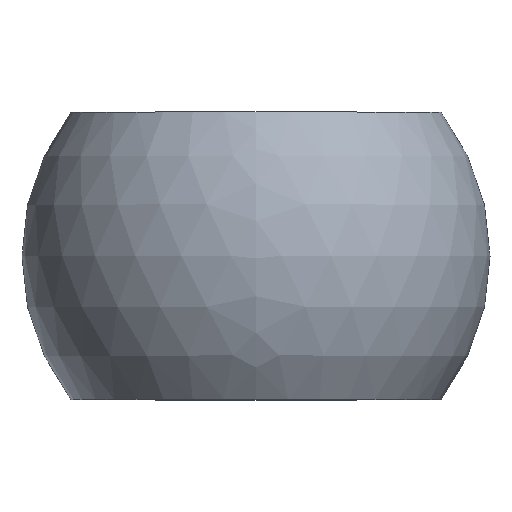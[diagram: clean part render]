
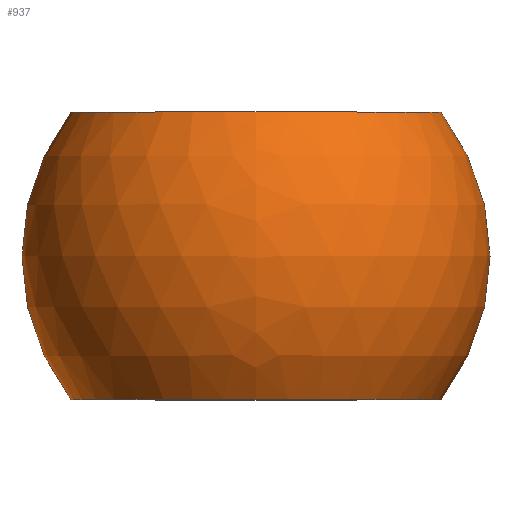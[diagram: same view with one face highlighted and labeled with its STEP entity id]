
A CAD part, top view. The second image highlights one B-rep face of the part: STEP entity #937.
In plain terms, the highlighted spherical face has radius 37.5 mm.
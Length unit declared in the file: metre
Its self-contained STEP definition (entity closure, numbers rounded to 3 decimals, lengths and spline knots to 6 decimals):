
#937=ADVANCED_FACE('',(#2110,#2111),#2112,.T.);
#2110=FACE_OUTER_BOUND('',#3727,.T.);
#2111=FACE_OUTER_BOUND('',#3728,.T.);
#2112=SPHERICAL_SURFACE('',#3729,0.0375);
#3727=EDGE_LOOP('',(#5496));
#3728=EDGE_LOOP('',(#5497));
#3729=AXIS2_PLACEMENT_3D('',#5498,#5499,#5500);
#5496=ORIENTED_EDGE('',*,*,#6888,.F.);
#5497=ORIENTED_EDGE('',*,*,#7080,.T.);
#5498=CARTESIAN_POINT('',(-0.453997,0.177521,0.0));
#5499=DIRECTION('',(0.0,1.0,0.0));
#5500=DIRECTION('',(-1.0,0.0,0.0));
#6888=EDGE_CURVE('',#7765,#7765,#7766,.T.);
#7080=EDGE_CURVE('',#8068,#8068,#8069,.T.);
#7765=VERTEX_POINT('',#8863);
#7766=CIRCLE('',#8864,0.029618);
#8068=VERTEX_POINT('',#9166);
#8069=CIRCLE('',#9167,0.029618);
#8863=CARTESIAN_POINT('',(-0.453997,0.200521,0.029618));
#8864=AXIS2_PLACEMENT_3D('',#10034,#10035,#10036);
#9166=CARTESIAN_POINT('',(-0.453997,0.154521,0.029618));
#9167=AXIS2_PLACEMENT_3D('',#10367,#10368,#10369);
#10034=CARTESIAN_POINT('',(-0.453997,0.200521,0.0));
#10035=DIRECTION('',(0.0,1.0,0.0));
#10036=DIRECTION('',(0.0,0.0,1.0));
#10367=CARTESIAN_POINT('',(-0.453997,0.154521,0.0));
#10368=DIRECTION('',(0.0,1.0,0.0));
#10369=DIRECTION('',(0.0,0.0,1.0));
